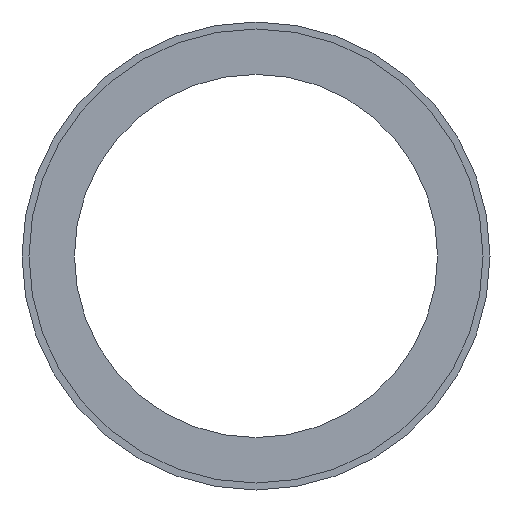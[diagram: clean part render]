
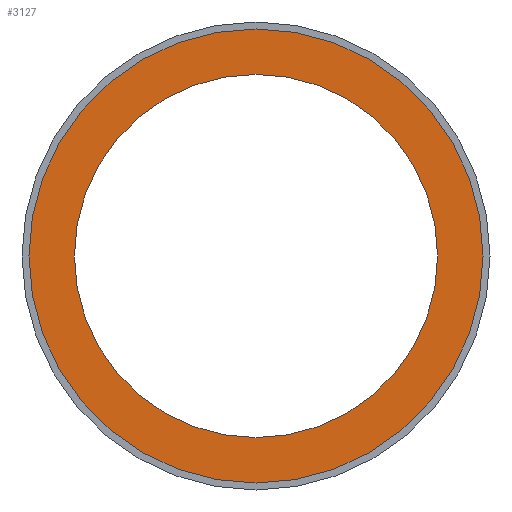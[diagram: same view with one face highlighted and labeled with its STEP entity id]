
A CAD part, front view. The second image highlights one B-rep face of the part: STEP entity #3127.
In plain terms, the highlighted planar face has unit normal (0, -1, 0).
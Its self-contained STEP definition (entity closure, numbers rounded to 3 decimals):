
#35 = EDGE_LOOP ( 'NONE', ( #553, #2503 ) ) ;
#259 = VERTEX_POINT ( 'NONE', #6208 ) ;
#464 = DIRECTION ( 'NONE',  ( 0., 0., -1. ) ) ;
#553 = ORIENTED_EDGE ( 'NONE', *, *, #5837, .T. ) ;
#660 = CARTESIAN_POINT ( 'NONE',  ( 0., -37.5, 130. ) ) ;
#727 = AXIS2_PLACEMENT_3D ( 'NONE', #6652, #5552, #4549 ) ;
#1048 = CIRCLE ( 'NONE', #3310, 162.5 ) ;
#1202 = EDGE_CURVE ( 'NONE', #3099, #6627, #2504, .T. ) ;
#1603 = DIRECTION ( 'NONE',  ( 0., -1., 0. ) ) ;
#1700 = CARTESIAN_POINT ( 'NONE',  ( 0., -37.5, 0. ) ) ;
#1702 = DIRECTION ( 'NONE',  ( 0., 0., -1. ) ) ;
#1885 = CARTESIAN_POINT ( 'NONE',  ( 0., -37.5, 162.5 ) ) ;
#2231 = DIRECTION ( 'NONE',  ( 0., -1., 0. ) ) ;
#2493 = EDGE_CURVE ( 'NONE', #6419, #259, #1048, .T. ) ;
#2503 = ORIENTED_EDGE ( 'NONE', *, *, #2493, .T. ) ;
#2504 = CIRCLE ( 'NONE', #5619, 130. ) ;
#2680 = EDGE_LOOP ( 'NONE', ( #6402, #5230 ) ) ;
#2683 = DIRECTION ( 'NONE',  ( 0., 0., -1. ) ) ;
#3099 = VERTEX_POINT ( 'NONE', #3866 ) ;
#3127 = ADVANCED_FACE ( 'NONE', ( #3837, #6213 ), #5090, .F. ) ;
#3161 = DIRECTION ( 'NONE',  ( 0., -1., 0. ) ) ;
#3216 = CARTESIAN_POINT ( 'NONE',  ( 0., -37.5, 0. ) ) ;
#3310 = AXIS2_PLACEMENT_3D ( 'NONE', #5891, #1603, #4318 ) ;
#3837 = FACE_BOUND ( 'NONE', #2680, .T. ) ;
#3866 = CARTESIAN_POINT ( 'NONE',  ( 0., -37.5, -130. ) ) ;
#4318 = DIRECTION ( 'NONE',  ( 0., 0., -1. ) ) ;
#4549 = DIRECTION ( 'NONE',  ( 0., 0., 1. ) ) ;
#4759 = CIRCLE ( 'NONE', #6396, 162.5 ) ;
#5090 = PLANE ( 'NONE',  #727 ) ;
#5230 = ORIENTED_EDGE ( 'NONE', *, *, #6877, .F. ) ;
#5552 = DIRECTION ( 'NONE',  ( 0., 1., 0. ) ) ;
#5619 = AXIS2_PLACEMENT_3D ( 'NONE', #6443, #3161, #464 ) ;
#5747 = CIRCLE ( 'NONE', #5776, 130. ) ;
#5776 = AXIS2_PLACEMENT_3D ( 'NONE', #1700, #2231, #2683 ) ;
#5837 = EDGE_CURVE ( 'NONE', #259, #6419, #4759, .T. ) ;
#5891 = CARTESIAN_POINT ( 'NONE',  ( 0., -37.5, 0. ) ) ;
#6208 = CARTESIAN_POINT ( 'NONE',  ( 0., -37.5, -162.5 ) ) ;
#6213 = FACE_OUTER_BOUND ( 'NONE', #35, .T. ) ;
#6396 = AXIS2_PLACEMENT_3D ( 'NONE', #3216, #6484, #1702 ) ;
#6402 = ORIENTED_EDGE ( 'NONE', *, *, #1202, .F. ) ;
#6419 = VERTEX_POINT ( 'NONE', #1885 ) ;
#6443 = CARTESIAN_POINT ( 'NONE',  ( 0., -37.5, 0. ) ) ;
#6484 = DIRECTION ( 'NONE',  ( 0., -1., 0. ) ) ;
#6627 = VERTEX_POINT ( 'NONE', #660 ) ;
#6652 = CARTESIAN_POINT ( 'NONE',  ( 0., -37.5, 130. ) ) ;
#6877 = EDGE_CURVE ( 'NONE', #6627, #3099, #5747, .T. ) ;
